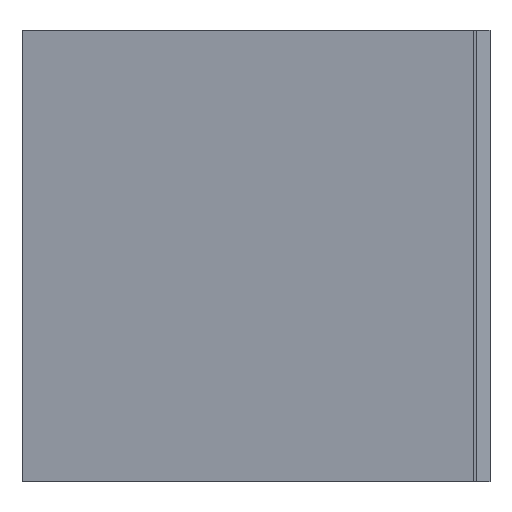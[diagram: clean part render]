
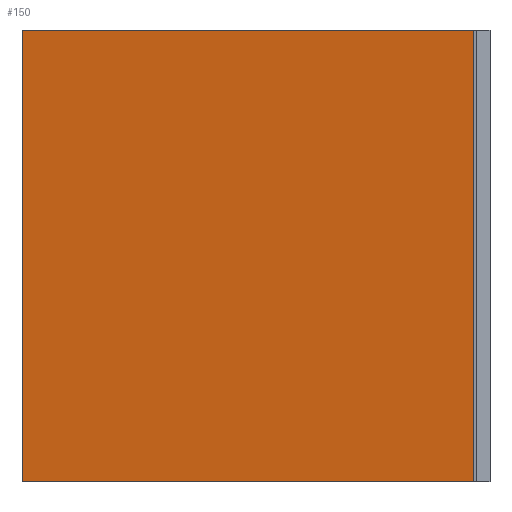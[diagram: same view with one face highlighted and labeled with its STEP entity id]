
A CAD part, left-side view. The second image highlights one B-rep face of the part: STEP entity #150.
In plain terms, the highlighted planar face has unit normal (0.986, -0.166, 0).
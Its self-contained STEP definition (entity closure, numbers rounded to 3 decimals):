
#98=CARTESIAN_POINT('Vertex',(20.,0.,0.)) ;
#101=CARTESIAN_POINT('Line Origine',(20.,0.,68.5)) ;
#105=CARTESIAN_POINT('Vertex',(20.,0.,137.)) ;
#120=CARTESIAN_POINT('Axis2P3D Location',(20.,0.,0.)) ;
#125=CARTESIAN_POINT('Line Origine',(31.5,68.5,0.)) ;
#129=CARTESIAN_POINT('Vertex',(43.,137.,0.)) ;
#132=CARTESIAN_POINT('Line Origine',(43.,137.,68.5)) ;
#136=CARTESIAN_POINT('Vertex',(43.,137.,137.)) ;
#139=CARTESIAN_POINT('Line Origine',(31.5,68.5,137.)) ;
#102=DIRECTION('Vector Direction',(0.,0.,1.)) ;
#121=DIRECTION('Axis2P3D Direction',(0.986,-0.166,0.)) ;
#122=DIRECTION('Axis2P3D XDirection',(0.166,0.986,0.)) ;
#126=DIRECTION('Vector Direction',(0.166,0.986,0.)) ;
#133=DIRECTION('Vector Direction',(0.,0.,1.)) ;
#140=DIRECTION('Vector Direction',(0.166,0.986,0.)) ;
#123=AXIS2_PLACEMENT_3D('Plane Axis2P3D',#120,#121,#122) ;
#145=ORIENTED_EDGE('',*,*,#107,.F.) ;
#146=ORIENTED_EDGE('',*,*,#131,.T.) ;
#147=ORIENTED_EDGE('',*,*,#138,.T.) ;
#148=ORIENTED_EDGE('',*,*,#143,.F.) ;
#103=VECTOR('Line Direction',#102,1.) ;
#127=VECTOR('Line Direction',#126,1.) ;
#134=VECTOR('Line Direction',#133,1.) ;
#141=VECTOR('Line Direction',#140,1.) ;
#150=ADVANCED_FACE('Extrude.1',(#149),#124,.T.) ;
#107=EDGE_CURVE('',#99,#106,#104,.T.) ;
#131=EDGE_CURVE('',#99,#130,#128,.T.) ;
#138=EDGE_CURVE('',#130,#137,#135,.T.) ;
#143=EDGE_CURVE('',#106,#137,#142,.T.) ;
#144=EDGE_LOOP('',(#145,#146,#147,#148)) ;
#149=FACE_OUTER_BOUND('',#144,.T.) ;
#104=LINE('Line',#101,#103) ;
#128=LINE('Line',#125,#127) ;
#135=LINE('Line',#132,#134) ;
#142=LINE('Line',#139,#141) ;
#124=PLANE('',#123) ;
#99=VERTEX_POINT('',#98) ;
#106=VERTEX_POINT('',#105) ;
#130=VERTEX_POINT('',#129) ;
#137=VERTEX_POINT('',#136) ;
